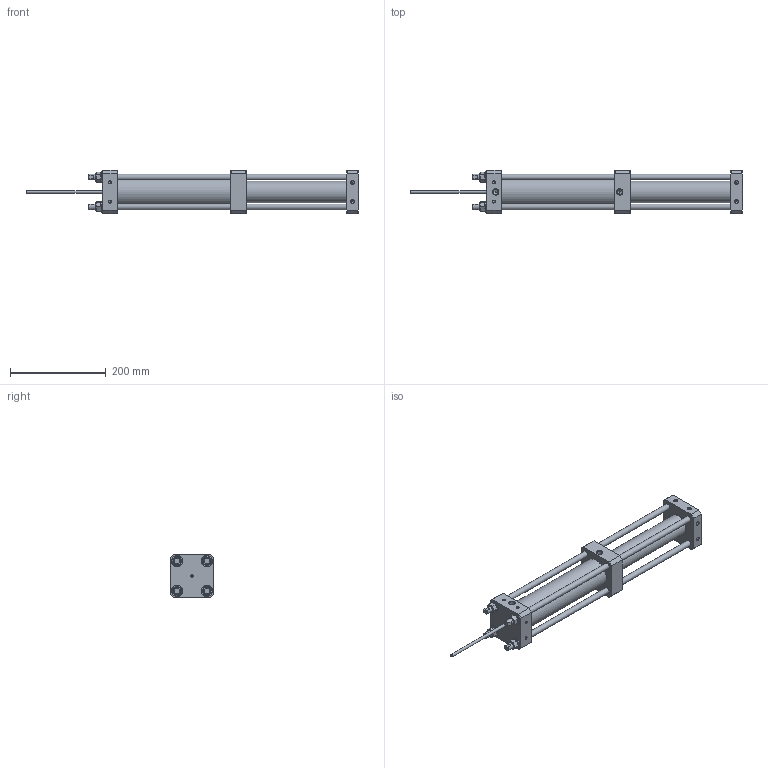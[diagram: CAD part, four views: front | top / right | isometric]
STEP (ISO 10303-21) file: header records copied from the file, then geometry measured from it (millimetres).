
FILE_DESCRIPTION(/* description */ (''),/* implementation_level */ '2;1');
FILE_NAME(/* name */ 'H32.2000.stp',/* time_stamp */ '2026-04-24T11:57:15+02:00',/* author */ ('janos'),/* organization */ (''),/* preprocessor_version */ 'ST-DEVELOPER v19.2',/* originating_system */ 'Autodesk Inventor 2024',/* authorisation */ '');
FILE_SCHEMA (('AUTOMOTIVE_DESIGN { 1 0 10303 214 3 1 1 }'));
Length unit declared in the file: millimetre
Products named in the file (1): HDÜ.BG.2000.32.1 Druckübersetzer_Vereinfachen_1
Bounding box: 692 x 90 x 90 mm (x, y, z)
Volume: 1909878.3 mm3; surface area: 235644.8 mm2
Topology: 1 solids, 1 shells, 236 faces, 593 edges, 375 vertices
Faces by surface type: plane 89, cone 89, cylinder 57, torus 1
Full cylindrical faces by diameter (mm): 4.917 x8, 5 x2, 6 x1, 6.647 x8, 11.445 x2, 12 x8, 13 x4, 14.376 x1, 24 x4, 45 x2, 60 x1
Entity records: 7055 total; most frequent: CARTESIAN_POINT 1480, DIRECTION 1172, ORIENTED_EDGE 1152, EDGE_CURVE 576, AXIS2_PLACEMENT_3D 471, VERTEX_POINT 375, EDGE_LOOP 289, FACE_OUTER_BOUND 236
